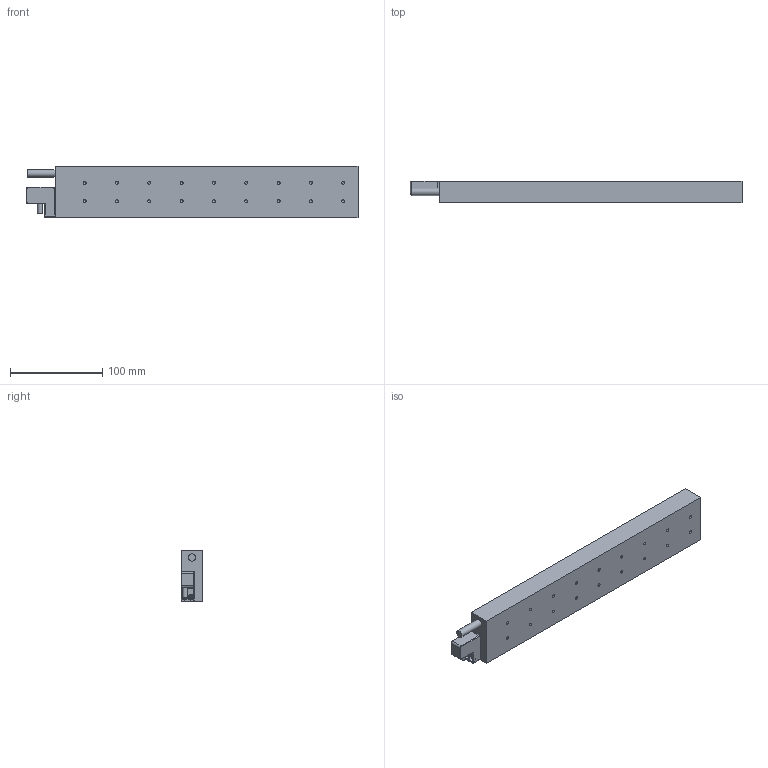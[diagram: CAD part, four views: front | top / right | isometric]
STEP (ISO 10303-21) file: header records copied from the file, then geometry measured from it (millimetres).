
FILE_DESCRIPTION( ( 'Unknown' ), '1' );
FILE_NAME( 'C:/Users/michael/Desktop/DPD56模型（业务用）/DPD56C6.stp', 'Unknown', ( 'Unknown' ), ( 'Unknown' ), 'PSStep 17.0.49', 'Unknown', ' ' );
FILE_SCHEMA( ( 'AUTOMOTIVE_DESIGN { 1 0 10303 214 1 1 1 1 }' ) );
Length unit declared in the file: millimetre
Products named in the file (3): Assem1; DPD56C2; 霍尔支架
Assembly tree (2 placements, depth 2):
  Assem1
    DPD56C2
    霍尔支架
Bounding box: 359.4 x 23.7 x 56 mm (x, y, z)
Volume: 446000.2 mm3; surface area: 60676.6 mm2
Topology: 2 solids, 3 shells, 101 faces, 248 edges, 157 vertices
Faces by surface type: cylinder 35, cone 34, plane 32
Full cylindrical faces by diameter (mm): 1.567 x2, 2.459 x2, 3.242 x18, 3.6 x2, 5 x1, 6 x2, 6.2 x1, 8 x1
Entity records: 3274 total; most frequent: DIRECTION 444, CARTESIAN_POINT 393, ORIENTED_EDGE 308, AXIS2_PLACEMENT_3D 186, EDGE_LOOP 160, EDGE_CURVE 154, VERTEX_POINT 135, FACE_OUTER_BOUND 130
